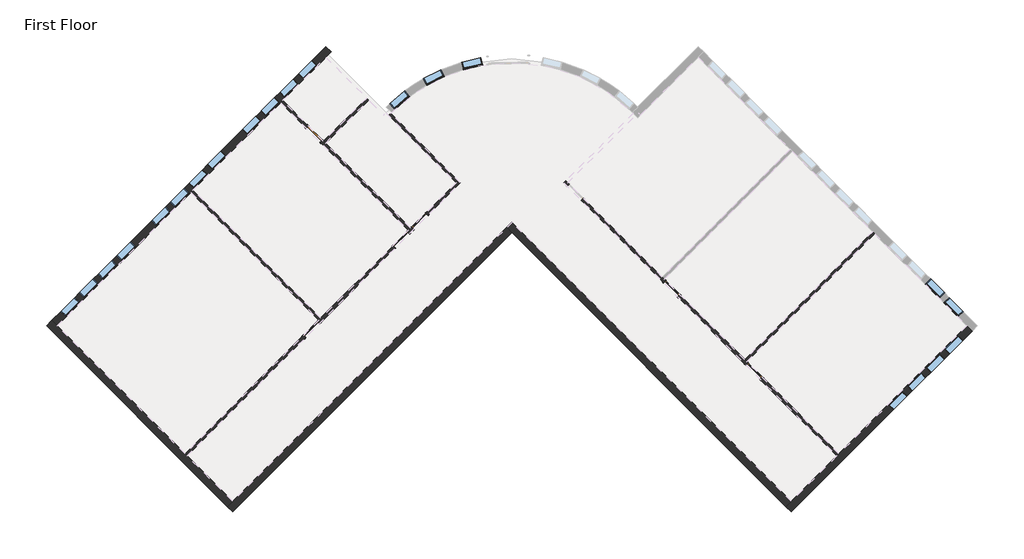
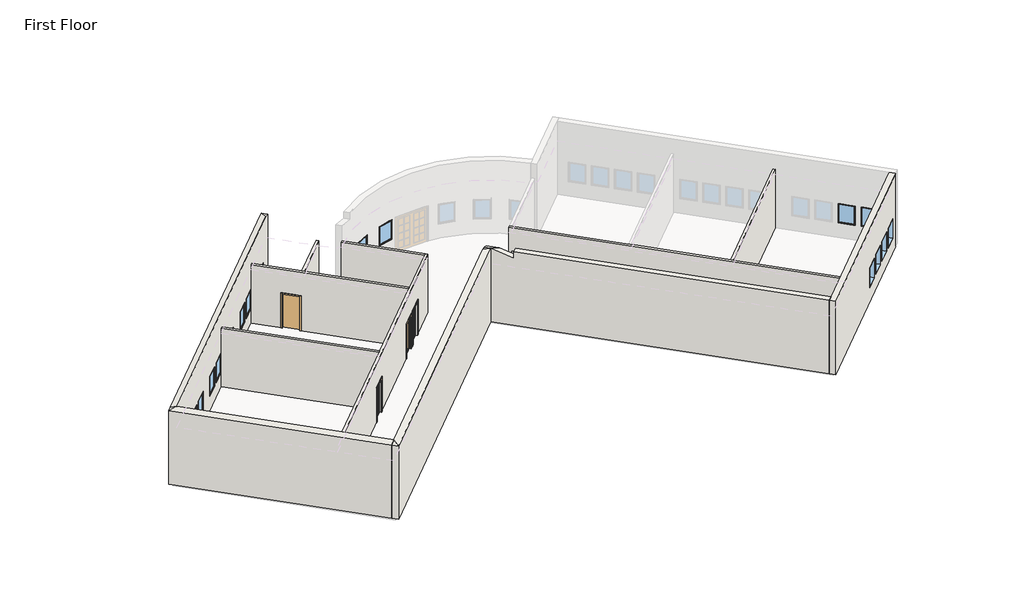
# One storey, part 1 of 2: 21 windows, 12 walls, 6 doors.
"""IFC4 building model written with IfcOpenShell, lengths in millimetres."""

from ifc_helpers import new_model, si_unit, point, frame_2d, origin, origin_with_axes, place, context, project, spatial, polyline, circle_curve, trimmed, segment, composite_curve, outline, extrude, faceted_brep, transform, mapped, element, save
from components import m_single_flush_0915_x_2134mm_83e8e835, m_single_glass_1_0915_x_2134mm_fb3287b7, m_single_glass_1_0915_x_2134mm_4e5e1233, m_fixed_0915_x_1220mm_bde29121, m_fixed_0915_x_1220mm_2a2509e7

model = new_model("IFC4")

# Units and contexts
model_context = context("Model", 3, world=origin())
ifc_project = project(units=[si_unit("LENGTHUNIT", "METRE", prefix="MILLI")], contexts=[model_context])

# Site, building, storey
site = spatial("IfcSite", under=ifc_project)
building = spatial("IfcBuilding", under=site)
storey = spatial("IfcBuildingStorey", under=building, Name="First Floor", Elevation=0.0)

# Doors
placement = place(None, origin())
m_single_flush_0915_x_2134mm_shape = m_single_flush_0915_x_2134mm_83e8e835(model_context)
element("IfcDoor", 1, ObjectType="M_Single-Flush : 0915 x 2134mm", at=placement, inside=storey, context=model_context, shape_type="MappedRepresentation", body=[
    mapped(m_single_flush_0915_x_2134mm_shape, transform((-10762.6979297, 6563.7995594, 0.0), x_axis=(0.7071067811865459, -0.7071067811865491, 0.0), y_axis=(0.7071067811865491, 0.7071067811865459, 0.0), z_axis=(0.0, 0.0, 1.0))),
])
m_single_glass_1_0915_x_2134mm_shape = m_single_glass_1_0915_x_2134mm_fb3287b7(model_context)
element("IfcDoor", 2, ObjectType="M_Single-Glass 1 : 0915 x 2134mm", at=placement, inside=storey, context=model_context, shape_type="MappedRepresentation", body=[
    mapped(m_single_glass_1_0915_x_2134mm_shape, transform((-10885.2041795, -2483.8084826, 0.0), x_axis=(0.7071067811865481, 0.7071067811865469, 0.0), y_axis=(-0.7071067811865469, 0.7071067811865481, 0.0), z_axis=(0.0, 0.0, 1.0))),
])
element("IfcDoor", 3, ObjectType="M_Single-Glass 1 : 0915 x 2134mm", at=placement, inside=storey, context=model_context, shape_type="MappedRepresentation", body=[
    mapped(m_single_glass_1_0915_x_2134mm_shape, transform((-6731.4821701, 1669.9135268, 0.0), x_axis=(0.7071067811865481, 0.7071067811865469, 0.0), y_axis=(-0.7071067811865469, 0.7071067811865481, 0.0), z_axis=(0.0, 0.0, 1.0))),
])
m_single_glass_1_0915_x_2134mm_2_shape = m_single_glass_1_0915_x_2134mm_4e5e1233(model_context)
element("IfcDoor", 4, ObjectType="M_Single-Glass 1 : 0915 x 2134mm", at=placement, inside=storey, context=model_context, shape_type="MappedRepresentation", body=[
    mapped(m_single_glass_1_0915_x_2134mm_2_shape, transform((-5868.8118971, 2532.5837999, 0.0), x_axis=(-0.7071067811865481, -0.7071067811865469, 0.0), y_axis=(0.7071067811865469, -0.7071067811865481, 0.0), z_axis=(0.0, 0.0, 1.0))),
])
element("IfcDoor", 5, ObjectType="M_Single-Glass 1 : 0915 x 2134mm", at=placement, inside=storey, context=model_context, shape_type="MappedRepresentation", body=[
    mapped(m_single_glass_1_0915_x_2134mm_2_shape, transform((5790.8485946, -591.9442895, 0.0), x_axis=(-0.7071067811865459, 0.7071067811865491, 0.0), y_axis=(-0.7071067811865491, -0.7071067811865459, 0.0), z_axis=(0.0, 0.0, 1.0))),
])
element("IfcDoor", 6, ObjectType="M_Single-Glass 1 : 0915 x 2134mm", at=placement, inside=storey, context=model_context, shape_type="MappedRepresentation", body=[
    mapped(m_single_glass_1_0915_x_2134mm_2_shape, transform((9606.3967859, -4407.4924808, 0.0), x_axis=(-0.7071067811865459, 0.7071067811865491, 0.0), y_axis=(-0.7071067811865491, -0.7071067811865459, 0.0), z_axis=(0.0, 0.0, 1.0))),
])

# Walls
element("IfcWall", 7, ObjectType="Exterior - Brick on Mtl. Stud", at=placement, inside=storey, context=model_context, shape_type="Brep", body=[
    faceted_brep([(19456.3942478, -2315.870622, 0.0), (13534.5517321, -8237.7131378, 0.0), (13436.6174429, -8335.647427, 0.0), (11330.3231184, -10441.9417514, 0.0), (11082.835745, -10689.4291248, 0.0), (11082.835745, -10689.4291248, 4572.0), (11330.3231184, -10441.9417514, 4572.0), (19456.3942478, -2315.870622, 4572.0), (16455.7866219, -5316.478248, 915.0), (16455.7866219, -5316.478248, 2135.0), (15808.7839171, -5963.4809528, 2135.0), (15808.7839171, -5963.4809528, 915.0), (17317.7497881, -4454.5150817, 915.0), (17317.7497881, -4454.5150817, 2135.0), (16670.7470833, -5101.5177865, 2135.0), (16670.7470833, -5101.5177865, 915.0), (18179.7129544, -3592.5519155, 915.0), (18179.7129544, -3592.5519155, 2135.0), (17532.7102496, -4239.5546203, 2135.0), (17532.7102496, -4239.5546203, 915.0), (19041.6761207, -2730.5887492, 915.0), (19041.6761207, -2730.5887492, 2135.0), (18394.6734159, -3377.591454, 2135.0), (18394.6734159, -3377.591454, 915.0), (19703.8816212, -2563.3579955, 0.0), (19703.8816212, -2563.3579955, 4572.0), (11330.3231184, -10936.9164983, 4572.0), (11330.3231184, -10936.9164983, 0.0), (16703.2739953, -5563.9656214, 915.0), (16056.2712905, -6210.9683262, 915.0), (16056.2712905, -6210.9683262, 2135.0), (16703.2739953, -5563.9656214, 2135.0), (17565.2371615, -4702.0024552, 915.0), (16918.2344568, -5349.0051599, 915.0), (16918.2344568, -5349.0051599, 2135.0), (17565.2371615, -4702.0024552, 2135.0), (18427.2003278, -3840.0392889, 915.0), (17780.197623, -4487.0419937, 915.0), (17780.197623, -4487.0419937, 2135.0), (18427.2003278, -3840.0392889, 2135.0), (19289.1634941, -2978.0761226, 915.0), (18642.1607893, -3625.0788274, 915.0), (18642.1607893, -3625.0788274, 2135.0), (19289.1634941, -2978.0761226, 2135.0)], [[[0, 1, 2, 3, 4, 5, 6, 7], [8, 9, 10, 11], [12, 13, 14, 15], [16, 17, 18, 19], [20, 21, 22, 23]], [[24, 25, 26, 27], [28, 29, 30, 31], [32, 33, 34, 35], [36, 37, 38, 39], [40, 41, 42, 43]], [[4, 3, 2, 1, 0, 24, 27]], [[7, 6, 5, 26, 25]], [[0, 7, 25, 24]], [[5, 4, 27, 26]], [[9, 8, 28, 31]], [[10, 9, 31, 30]], [[11, 10, 30, 29]], [[8, 11, 29, 28]], [[13, 12, 32, 35]], [[14, 13, 35, 34]], [[15, 14, 34, 33]], [[12, 15, 33, 32]], [[17, 16, 36, 39]], [[18, 17, 39, 38]], [[19, 18, 38, 37]], [[16, 19, 37, 36]], [[21, 20, 40, 43]], [[22, 21, 43, 42]], [[23, 22, 42, 41]], [[20, 23, 41, 40]]]),
])
element("IfcWall", 8, ObjectType="Exterior - Brick on Mtl. Stud", at=placement, inside=storey, context=model_context, shape_type="Brep", body=[
    faceted_brep([(11330.3231184, -10441.9417514, 0.0), (-1601.2456959, 2489.6270629, 0.0), (-1601.2456959, 2489.6270629, 4455.0920015), (-1106.2709491, 1994.6523161, 4455.0920015), (-491.0880494, 1379.4694164, 4165.1754932), (-491.0880494, 1379.4694164, 4572.0), (11330.3231184, -10441.9417514, 4572.0), (11082.835745, -10689.4291248, 0.0), (11082.835745, -10689.4291248, 4572.0), (-738.5754229, 1131.982043, 4572.0), (-738.5754229, 1131.982043, 4165.1754932), (-1601.2456959, 1994.6523161, 4571.7250795), (-1848.7330693, 2242.1396895, 4571.7250795), (-1848.7330693, 2242.1396895, 0.0), (-1601.2456959, 1994.6523161, 0.0)], [[[0, 1, 2, 3, 4, 5, 6]], [[7, 8, 9, 10, 11, 12, 13, 14]], [[1, 0, 7, 14, 13]], [[0, 6, 8, 7]], [[2, 1, 13, 12]], [[6, 5, 9, 8]], [[9, 5, 4, 10]], [[4, 3, 11, 10]], [[3, 2, 12, 11]]]),
])
element("IfcWall", 9, ObjectType="Exterior - Brick on Mtl. Stud", at=placement, inside=storey, context=model_context, shape_type="Brep", body=[
    faceted_brep([(-1848.7330693, 2242.1396895, 0.0), (-14532.8145102, -10441.9417514, 0.0), (-14780.3018837, -10689.4291248, 0.0), (-14780.3018837, -10689.4291248, 4571.7250795), (-14532.8145102, -10441.9417514, 4688.3581575), (-2096.2204427, 1994.6523161, 4688.3581575), (-1848.7330693, 2242.1396895, 4571.7250795), (-1601.2456959, 1994.6523161, 0.0), (-1601.2456959, 1994.6523161, 4571.7250795), (-14532.8145102, -10936.9164983, 4571.7250795), (-14532.8145102, -10936.9164983, 0.0)], [[[0, 1, 2, 3, 4, 5, 6]], [[7, 8, 9, 10]], [[2, 1, 0, 7, 10]], [[0, 6, 8, 7]], [[3, 2, 10, 9]], [[6, 5, 8]], [[5, 4, 9, 8]], [[4, 3, 9]]]),
])
element("IfcWall", 10, ObjectType="Exterior - Brick on Mtl. Stud", at=placement, inside=storey, context=model_context, shape_type="Brep", body=[
    faceted_brep([(-14532.8145102, -10441.9417514, 0.0), (-16639.1088347, -8335.647427, 0.0), (-16737.0431239, -8237.7131378, 0.0), (-22658.8856396, -2315.870622, 0.0), (-22775.5582585, -2199.1980031, 0.0), (-22906.3730131, -2068.3832486, 0.0), (-22906.3730131, -2068.3832486, 4571.7250795), (-22658.8856396, -2315.870622, 4688.3581575), (-14532.8145102, -10441.9417514, 4688.3581575), (-14780.3018837, -10689.4291248, 0.0), (-14780.3018837, -10689.4291248, 4571.7250795), (-23153.8603865, -2315.870622, 4571.7250795), (-23153.8603865, -2315.870622, 0.0), (-23023.045632, -2446.6853766, 0.0), (-14649.4871291, -10558.6143703, 0.0), (-23023.045632, -2185.0558675, 0.0), (-22892.2308774, -2315.870622, 0.0)], [[[0, 1, 2, 3, 4, 5, 6, 7, 8]], [[9, 10, 11, 12, 13]], [[0, 8, 10, 9, 14]], [[6, 5, 15, 12, 11]], [[8, 7, 11, 10]], [[7, 6, 11]], [[14, 9, 13, 16]], [[5, 4, 16, 15]], [[16, 13, 12, 15]], [[4, 3, 2, 1, 0, 14, 16]]]),
])
element("IfcWall", 11, ObjectType="Exterior - Brick on Mtl. Stud", at=placement, inside=storey, context=model_context, shape_type="Brep", body=[
    faceted_brep([(-22658.8856396, -2315.870622, 0.0), (-16473.6458479, 3869.3691697, 0.0), (-16375.7115587, 3967.3034589, 0.0), (-12319.9238385, 8023.0911791, 0.0), (-12221.9895493, 8121.0254683, 0.0), (-10222.2915721, 10120.7234455, 0.0), (-10105.6189532, 10237.3960644, 0.0), (-9974.8041987, 10368.2108189, 0.0), (-9974.8041987, 10368.2108189, 4571.7250795), (-10222.2915721, 10120.7234455, 4688.3581575), (-22658.8856396, -2315.870622, 4688.3581575), (-21597.1648077, -1254.1497901, 915.0), (-22244.1675125, -1901.1524949, 915.0), (-22244.1675125, -1901.1524949, 2135.0), (-21597.1648077, -1254.1497901, 2135.0), (-20735.2016414, -392.1866238, 915.0), (-21382.2043462, -1039.1893286, 915.0), (-21382.2043462, -1039.1893286, 2135.0), (-20735.2016414, -392.1866238, 2135.0), (-19011.2753089, 1331.7397087, 915.0), (-19658.2780137, 684.7370039, 915.0), (-19658.2780137, 684.7370039, 2135.0), (-19011.2753089, 1331.7397087, 2135.0), (-19873.2384752, 469.7765424, 915.0), (-20520.2411799, -177.2261623, 915.0), (-20520.2411799, -177.2261623, 2135.0), (-19873.2384752, 469.7765424, 2135.0), (-13838.0820977, 6504.9329199, 915.0), (-13838.0820977, 6504.9329199, 2135.0), (-13191.0793929, 7151.9356247, 2135.0), (-13191.0793929, 7151.9356247, 915.0), (-12976.1189315, 7366.8960861, 915.0), (-12976.1189315, 7366.8960861, 2135.0), (-12329.1162267, 8013.8987909, 2135.0), (-12329.1162267, 8013.8987909, 915.0), (-12114.1557652, 8228.8592524, 915.0), (-12114.1557652, 8228.8592524, 2135.0), (-11467.1530604, 8875.8619572, 2135.0), (-11467.1530604, 8875.8619572, 915.0), (-11252.1925989, 9090.8224187, 915.0), (-11252.1925989, 9090.8224187, 2135.0), (-10605.1898941, 9737.8251235, 2135.0), (-10605.1898941, 9737.8251235, 915.0), (-14808.2326015, 5534.7824161, 915.0), (-15455.2353063, 4887.7797113, 915.0), (-15455.2353063, 4887.7797113, 2135.0), (-14808.2326015, 5534.7824161, 2135.0), (-15670.1957678, 4672.8192498, 915.0), (-16317.1984726, 4025.816545, 915.0), (-16317.1984726, 4025.816545, 2135.0), (-15670.1957678, 4672.8192498, 2135.0), (-16532.1589341, 3810.8560836, 915.0), (-17179.1616388, 3163.8533788, 915.0), (-17179.1616388, 3163.8533788, 2135.0), (-16532.1589341, 3810.8560836, 2135.0), (-17394.1221003, 2948.8929173, 915.0), (-18041.1248051, 2301.8902125, 915.0), (-18041.1248051, 2301.8902125, 2135.0), (-17394.1221003, 2948.8929173, 2135.0), (-22906.3730131, -2068.3832486, 0.0), (-22906.3730131, -2068.3832486, 4571.7250795), (-10222.2915721, 10615.6981923, 4571.7250795), (-10222.2915721, 10615.6981923, 0.0), (-10353.1063267, 10484.8834378, 0.0), (-21844.6521811, -1006.6624167, 915.0), (-21844.6521811, -1006.6624167, 2135.0), (-22491.6548859, -1653.6651215, 2135.0), (-22491.6548859, -1653.6651215, 915.0), (-20982.6890148, -144.6992504, 915.0), (-20982.6890148, -144.6992504, 2135.0), (-21629.6917196, -791.7019552, 2135.0), (-21629.6917196, -791.7019552, 915.0), (-19258.7626823, 1579.2270821, 915.0), (-19258.7626823, 1579.2270821, 2135.0), (-19905.7653871, 932.2243773, 2135.0), (-19905.7653871, 932.2243773, 915.0), (-20120.7258486, 717.2639159, 915.0), (-20120.7258486, 717.2639159, 2135.0), (-20767.7285534, 70.2612111, 2135.0), (-20767.7285534, 70.2612111, 915.0), (-14085.5694711, 6752.4202933, 915.0), (-13438.5667664, 7399.4229981, 915.0), (-13438.5667664, 7399.4229981, 2135.0), (-14085.5694711, 6752.4202933, 2135.0), (-13223.6063049, 7614.3834596, 915.0), (-12576.6036001, 8261.3861643, 915.0), (-12576.6036001, 8261.3861643, 2135.0), (-13223.6063049, 7614.3834596, 2135.0), (-12361.6431386, 8476.3466258, 915.0), (-11714.6404338, 9123.3493306, 915.0), (-11714.6404338, 9123.3493306, 2135.0), (-12361.6431386, 8476.3466258, 2135.0), (-11499.6799723, 9338.3097921, 915.0), (-10852.6772676, 9985.3124969, 915.0), (-10852.6772676, 9985.3124969, 2135.0), (-11499.6799723, 9338.3097921, 2135.0), (-15055.7199749, 5782.2697895, 915.0), (-15055.7199749, 5782.2697895, 2135.0), (-15702.7226797, 5135.2670847, 2135.0), (-15702.7226797, 5135.2670847, 915.0), (-15917.6831412, 4920.3066232, 915.0), (-15917.6831412, 4920.3066232, 2135.0), (-16564.685846, 4273.3039184, 2135.0), (-16564.685846, 4273.3039184, 915.0), (-16779.6463075, 4058.343457, 915.0), (-16779.6463075, 4058.343457, 2135.0), (-17426.6490123, 3411.3407522, 2135.0), (-17426.6490123, 3411.3407522, 915.0), (-17641.6094737, 3196.3802907, 915.0), (-17641.6094737, 3196.3802907, 2135.0), (-18288.6121785, 2549.3775859, 2135.0), (-18288.6121785, 2549.3775859, 915.0), (-22775.5582585, -2199.1980031, 0.0), (-10091.4768176, 10484.8834378, 0.0), (-10222.2915721, 10354.0686833, 0.0)], [[[0, 1, 2, 3, 4, 5, 6, 7, 8, 9, 10], [11, 12, 13, 14], [15, 16, 17, 18], [19, 20, 21, 22], [23, 24, 25, 26], [27, 28, 29, 30], [31, 32, 33, 34], [35, 36, 37, 38], [39, 40, 41, 42], [43, 44, 45, 46], [47, 48, 49, 50], [51, 52, 53, 54], [55, 56, 57, 58]], [[59, 60, 61, 62, 63], [64, 65, 66, 67], [68, 69, 70, 71], [72, 73, 74, 75], [76, 77, 78, 79], [80, 81, 82, 83], [84, 85, 86, 87], [88, 89, 90, 91], [92, 93, 94, 95], [96, 97, 98, 99], [100, 101, 102, 103], [104, 105, 106, 107], [108, 109, 110, 111]], [[0, 10, 60, 59, 112]], [[8, 7, 113, 62, 61]], [[65, 64, 11, 14]], [[66, 65, 14, 13]], [[67, 66, 13, 12]], [[64, 67, 12, 11]], [[69, 68, 15, 18]], [[70, 69, 18, 17]], [[71, 70, 17, 16]], [[68, 71, 16, 15]], [[73, 72, 19, 22]], [[74, 73, 22, 21]], [[75, 74, 21, 20]], [[72, 75, 20, 19]], [[77, 76, 23, 26]], [[78, 77, 26, 25]], [[79, 78, 25, 24]], [[76, 79, 24, 23]], [[28, 27, 80, 83]], [[29, 28, 83, 82]], [[30, 29, 82, 81]], [[27, 30, 81, 80]], [[32, 31, 84, 87]], [[33, 32, 87, 86]], [[34, 33, 86, 85]], [[31, 34, 85, 84]], [[36, 35, 88, 91]], [[37, 36, 91, 90]], [[38, 37, 90, 89]], [[35, 38, 89, 88]], [[40, 39, 92, 95]], [[41, 40, 95, 94]], [[42, 41, 94, 93]], [[39, 42, 93, 92]], [[97, 96, 43, 46]], [[98, 97, 46, 45]], [[99, 98, 45, 44]], [[96, 99, 44, 43]], [[101, 100, 47, 50]], [[102, 101, 50, 49]], [[103, 102, 49, 48]], [[100, 103, 48, 47]], [[105, 104, 51, 54]], [[106, 105, 54, 53]], [[107, 106, 53, 52]], [[104, 107, 52, 51]], [[109, 108, 55, 58]], [[110, 109, 58, 57]], [[111, 110, 57, 56]], [[108, 111, 56, 55]], [[10, 9, 61, 60]], [[9, 8, 61]], [[7, 6, 114, 113]], [[112, 59, 63, 114]], [[63, 62, 113, 114]], [[6, 5, 4, 3, 2, 1, 0, 112, 114]]]),
])
element("IfcWall", 12, ObjectType="Interior - 138mm Partition (1-hr)", at=placement, inside=storey, context=model_context, shape_type="Brep", body=[
    faceted_brep([(-6359.0136731, 1944.4477346, 0.0), (-6143.3461049, 2160.1153029, 0.0), (-6143.3461049, 2160.1153029, 2134.0), (-5496.3434001, 2807.1180077, 2134.0), (-5496.3434001, 2807.1180077, 0.0), (-3997.9841307, 4305.477277, 0.0), (-3997.9841307, 4305.477277, 3658.0), (-16639.1088347, -8335.647427, 3658.0), (-16639.1088347, -8335.647427, 0.0), (-11159.7383873, -2856.2769796, 0.0), (-11159.7383873, -2856.2769796, 2134.0), (-10512.7356825, -2209.2742748, 2134.0), (-10512.7356825, -2209.2742748, 0.0), (-7006.0163779, 1297.4450298, 0.0), (-7006.0163779, 1297.4450298, 2134.0), (-6359.0136731, 1944.4477346, 2134.0), (-6241.2803941, 2258.0495921, 2134.0), (-6241.2803941, 2258.0495921, 0.0), (-6300.1470336, 2199.1829525, 0.0), (-6398.0813228, 2101.2486633, 0.0), (-6456.9479623, 2042.3820238, 0.0), (-6456.9479623, 2042.3820238, 2134.0), (-7103.9506671, 1395.379319, 2134.0), (-7103.9506671, 1395.379319, 0.0), (-10453.869043, -1954.5390569, 0.0), (-10551.8033322, -2052.473346, 0.0), (-10610.6699717, -2111.3399856, 0.0), (-10610.6699717, -2111.3399856, 2134.0), (-11257.6726765, -2758.3426904, 2134.0), (-11257.6726765, -2758.3426904, 0.0), (-16737.0431239, -8237.7131378, 0.0), (-16737.0431239, -8237.7131378, 3658.0), (-10551.8033322, -2052.473346, 3658.0), (-10453.869043, -1954.5390569, 3658.0), (-6398.0813228, 2101.2486633, 3658.0), (-6300.1470336, 2199.1829525, 3658.0), (-4193.8527091, 4305.477277, 3658.0), (-4095.9184199, 4403.4115662, 3658.0), (-4095.9184199, 4403.4115662, 0.0), (-4193.8527091, 4305.477277, 0.0), (-5594.2776893, 2905.0522969, 0.0), (-5594.2776893, 2905.0522969, 2134.0)], [[[0, 1, 2, 3, 4, 5, 6, 7, 8, 9, 10, 11, 12, 13, 14, 15]], [[16, 17, 18, 19, 20, 21, 22, 23, 24, 25, 26, 27, 28, 29, 30, 31, 32, 33, 34, 35, 36, 37, 38, 39, 40, 41]], [[9, 8, 30, 29]], [[13, 12, 26, 25, 24, 23]], [[40, 39, 38, 5, 4]], [[20, 19, 18, 17, 1, 0]], [[7, 6, 37, 36, 35, 34, 33, 32, 31]], [[8, 7, 31, 30]], [[6, 5, 38, 37]], [[27, 26, 12, 11]], [[28, 27, 11, 10]], [[29, 28, 10, 9]], [[21, 20, 0, 15]], [[22, 21, 15, 14]], [[23, 22, 14, 13]], [[2, 1, 17, 16]], [[3, 2, 16, 41]], [[4, 3, 41, 40]]]),
])
element("IfcWall", 13, ObjectType="Interior - 138mm Partition (1-hr)", at=placement, inside=storey, context=model_context, shape_type="SweptSolid", body=[
    extrude(outline(composite_curve([segment(polyline([(-7216.038281, 7523.5314273), (-4095.9184199, 4403.4115662), (-4193.8527091, 4305.477277), (-7312.3566207, 7423.9811885)]), True, "CONTINUOUS"), segment(trimmed(circle_curve(frame_2d((-1601.2456959, 1994.6523161)), 7880.0), [point((-7312.3566207, 7423.9811885))], [point((-7216.038281, 7523.5314273))], False, "CARTESIAN"), True, "CONTINUOUS")], self_intersect=False)), origin_with_axes(), (0.0, 0.0, 1.0), 3658.0),
])
element("IfcWall", 14, ObjectType="Interior - 138mm Partition (1-hr)", at=placement, inside=storey, context=model_context, shape_type="Brep", body=[
    faceted_brep([(-6300.1470336, 2199.1829525, 0.0), (-10233.4285039, 6132.4644229, 0.0), (-10331.3627931, 6230.3987121, 0.0), (-10390.2294327, 6289.2653516, 0.0), (-10390.2294327, 6289.2653516, 2134.0), (-11037.2321375, 6936.2680564, 2134.0), (-11037.2321375, 6936.2680564, 0.0), (-12221.9895493, 8121.0254683, 0.0), (-12221.9895493, 8121.0254683, 3658.0), (-10331.3627931, 6230.3987121, 3658.0), (-10233.4285039, 6132.4644229, 3658.0), (-6300.1470336, 2199.1829525, 3658.0), (-10488.1637219, 6191.3310624, 2134.0), (-10488.1637219, 6191.3310624, 0.0), (-6398.0813228, 2101.2486633, 0.0), (-6398.0813228, 2101.2486633, 3658.0), (-12319.9238385, 8023.0911791, 3658.0), (-12319.9238385, 8023.0911791, 0.0), (-11135.1664266, 6838.3337672, 0.0), (-11135.1664266, 6838.3337672, 2134.0)], [[[0, 1, 2, 3, 4, 5, 6, 7, 8, 9, 10, 11]], [[12, 13, 14, 15, 16, 17, 18, 19]], [[18, 17, 7, 6]], [[14, 13, 3, 2, 1, 0]], [[11, 10, 9, 8, 16, 15]], [[8, 7, 17, 16]], [[0, 11, 15, 14]], [[4, 3, 13, 12]], [[5, 4, 12, 19]], [[6, 5, 19, 18]]]),
])
element("IfcWall", 15, ObjectType="Interior - 138mm Partition (1-hr)", at=placement, inside=storey, context=model_context, shape_type="SweptSolid", body=[
    extrude(outline(polyline([(-8233.7305267, 8132.1624001), (-10233.4285039, 6132.4644229), (-10331.3627931, 6230.3987121), (-8331.6648159, 8230.0966893), (-8233.7305267, 8132.1624001)])), origin_with_axes(), (0.0, 0.0, 1.0), 3658.0),
])
element("IfcWall", 16, ObjectType="Interior - 138mm Partition (1-hr)", at=placement, inside=storey, context=model_context, shape_type="SweptSolid", body=[
    extrude(outline(polyline([(-16375.7115587, 3967.3034589), (-10453.869043, -1954.5390569), (-10551.8033322, -2052.473346), (-16473.6458479, 3869.3691697), (-16375.7115587, 3967.3034589)])), origin_with_axes(), (0.0, 0.0, 1.0), 3658.0),
])
element("IfcWall", 17, ObjectType="Interior - 138mm Partition (1-hr)", at=placement, inside=storey, context=model_context, shape_type="Brep", body=[
    faceted_brep([(9331.8625781, -4035.0239838, 2134.0), (9331.8625781, -4035.0239838, 0.0), (9272.9959386, -3976.1573443, 0.0), (9175.0616494, -3878.2230551, 0.0), (6163.3170916, -866.4784973, 0.0), (6163.3170916, -866.4784973, 2134.0), (5516.3143868, -219.4757925, 2134.0), (5516.3143868, -219.4757925, 0.0), (5457.4477473, -160.609153, 0.0), (5359.5134581, -62.6748638, 0.0), (1697.2306616, 3599.6079327, 0.0), (1697.2306616, 3599.6079327, 2134.0), (1050.2279568, 4246.6106375, 2134.0), (1050.2279568, 4246.6106375, 0.0), (991.3613173, 4305.477277, 0.0), (893.4270281, 4403.4115662, 0.0), (893.4270281, 4403.4115662, 3658.0), (991.3613173, 4305.477277, 3658.0), (5359.5134581, -62.6748638, 3658.0), (5457.4477473, -160.609153, 3658.0), (9175.0616494, -3878.2230551, 3658.0), (9272.9959386, -3976.1573443, 3658.0), (13534.5517321, -8237.7131378, 3658.0), (13534.5517321, -8237.7131378, 0.0), (9978.8652829, -4682.0266886, 0.0), (9978.8652829, -4682.0266886, 2134.0), (6065.3828024, -964.4127865, 0.0), (9233.9282889, -4132.958273, 0.0), (9233.9282889, -4132.958273, 2134.0), (9880.9309937, -4779.9609778, 2134.0), (9880.9309937, -4779.9609778, 0.0), (13436.6174429, -8335.647427, 0.0), (13436.6174429, -8335.647427, 3658.0), (795.4927389, 4305.477277, 3658.0), (795.4927389, 4305.477277, 0.0), (952.2936677, 4148.6763483, 0.0), (952.2936677, 4148.6763483, 2134.0), (1599.2963724, 3501.6736435, 2134.0), (1599.2963724, 3501.6736435, 0.0), (5418.3800976, -317.4100817, 0.0), (5418.3800976, -317.4100817, 2134.0), (6065.3828024, -964.4127865, 2134.0)], [[[0, 1, 2, 3, 4, 5, 6, 7, 8, 9, 10, 11, 12, 13, 14, 15, 16, 17, 18, 19, 20, 21, 22, 23, 24, 25]], [[26, 27, 28, 29, 30, 31, 32, 33, 34, 35, 36, 37, 38, 39, 40, 41]], [[15, 14, 13, 35, 34]], [[10, 9, 8, 7, 39, 38]], [[24, 23, 31, 30]], [[4, 3, 2, 1, 27, 26]], [[22, 21, 20, 19, 18, 17, 16, 33, 32]], [[23, 22, 32, 31]], [[16, 15, 34, 33]], [[36, 35, 13, 12]], [[37, 36, 12, 11]], [[38, 37, 11, 10]], [[40, 39, 7, 6]], [[41, 40, 6, 5]], [[26, 41, 5, 4]], [[28, 27, 1, 0]], [[29, 28, 0, 25]], [[30, 29, 25, 24]]]),
])
element("IfcWall", 18, ObjectType="Interior - 138mm Partition (1-hr)", at=placement, inside=storey, context=model_context, shape_type="SweptSolid", body=[
    extrude(outline(polyline([(15194.8384543, 1945.6851715), (9272.9959386, -3976.1573443), (9175.0616494, -3878.2230551), (15096.9041651, 2043.6194607), (15194.8384543, 1945.6851715)])), origin_with_axes(), (0.0, 0.0, 1.0), 3658.0),
])

# Windows
m_fixed_0915_x_1220mm_shape = m_fixed_0915_x_1220mm_bde29121(model_context)
element("IfcWindow", 19, ObjectType="M_Fixed : 0915 x 1220mm", at=placement, inside=storey, context=model_context, shape_type="MappedRepresentation", body=[
    mapped(m_fixed_0915_x_1220mm_shape, transform((-22053.6022349, -1444.7150676, 0.0), x_axis=(-0.7071067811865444, -0.7071067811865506, 0.0), y_axis=(0.7071067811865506, -0.7071067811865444, 0.0), z_axis=(0.0, 0.0, 1.0))),
])
element("IfcWindow", 20, ObjectType="M_Fixed : 0915 x 1220mm", at=placement, inside=storey, context=model_context, shape_type="MappedRepresentation", body=[
    mapped(m_fixed_0915_x_1220mm_shape, transform((-6805.4026025, 8143.1636668, 0.0), x_axis=(-0.7632901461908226, -0.6460558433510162, 0.0), y_axis=(0.6460558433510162, -0.7632901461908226, 0.0), z_axis=(0.0, 0.0, 1.0))),
])
element("IfcWindow", 21, ObjectType="M_Fixed : 0915 x 1220mm", at=placement, inside=storey, context=model_context, shape_type="MappedRepresentation", body=[
    mapped(m_fixed_0915_x_1220mm_shape, transform((18851.1108431, -1444.7150676, 0.0), x_axis=(-0.7071067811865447, 0.7071067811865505, 0.0), y_axis=(-0.7071067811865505, -0.7071067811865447, 0.0), z_axis=(0.0, 0.0, 1.0))),
])
element("IfcWindow", 22, ObjectType="M_Fixed : 0915 x 1220mm", at=placement, inside=storey, context=model_context, shape_type="MappedRepresentation", body=[
    mapped(m_fixed_0915_x_1220mm_shape, transform((-3446.8177118, 9835.6538384, 0.0), x_axis=(-0.9733997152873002, -0.22911349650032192, 0.0), y_axis=(0.22911349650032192, -0.9733997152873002, 0.0), z_axis=(0.0, 0.0, 1.0))),
])
element("IfcWindow", 23, ObjectType="M_Fixed : 0915 x 1220mm", at=placement, inside=storey, context=model_context, shape_type="MappedRepresentation", body=[
    mapped(m_fixed_0915_x_1220mm_shape, transform((-5226.2698635, 9188.1661114, 0.0), x_axis=(-0.8930191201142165, -0.45001872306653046, 0.0), y_axis=(0.45001872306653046, -0.8930191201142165, 0.0), z_axis=(0.0, 0.0, 1.0))),
])
element("IfcWindow", 24, ObjectType="M_Fixed : 0915 x 1220mm", at=placement, inside=storey, context=model_context, shape_type="MappedRepresentation", body=[
    mapped(m_fixed_0915_x_1220mm_shape, transform((17989.1476769, -582.7519014, 0.0), x_axis=(-0.7071067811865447, 0.7071067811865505, 0.0), y_axis=(-0.7071067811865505, -0.7071067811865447, 0.0), z_axis=(0.0, 0.0, 1.0))),
])
element("IfcWindow", 25, ObjectType="M_Fixed : 0915 x 1220mm", at=placement, inside=storey, context=model_context, shape_type="MappedRepresentation", body=[
    mapped(m_fixed_0915_x_1220mm_shape, transform((-21191.6390687, -582.7519014, 0.0), x_axis=(-0.7071067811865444, -0.7071067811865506, 0.0), y_axis=(0.7071067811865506, -0.7071067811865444, 0.0), z_axis=(0.0, 0.0, 1.0))),
])
element("IfcWindow", 26, ObjectType="M_Fixed : 0915 x 1220mm", at=placement, inside=storey, context=model_context, shape_type="MappedRepresentation", body=[
    mapped(m_fixed_0915_x_1220mm_shape, transform((-20329.6759024, 279.2112649, 0.0), x_axis=(-0.7071067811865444, -0.7071067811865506, 0.0), y_axis=(0.7071067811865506, -0.7071067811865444, 0.0), z_axis=(0.0, 0.0, 1.0))),
])
element("IfcWindow", 27, ObjectType="M_Fixed : 0915 x 1220mm", at=placement, inside=storey, context=model_context, shape_type="MappedRepresentation", body=[
    mapped(m_fixed_0915_x_1220mm_shape, transform((-19467.7127362, 1141.1744312, 0.0), x_axis=(-0.7071067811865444, -0.7071067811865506, 0.0), y_axis=(0.7071067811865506, -0.7071067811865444, 0.0), z_axis=(0.0, 0.0, 1.0))),
])
element("IfcWindow", 28, ObjectType="M_Fixed : 0915 x 1220mm", at=placement, inside=storey, context=model_context, shape_type="MappedRepresentation", body=[
    mapped(m_fixed_0915_x_1220mm_shape, transform((-17850.5595276, 2758.3276398, 0.0), x_axis=(-0.7071067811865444, -0.7071067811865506, 0.0), y_axis=(0.7071067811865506, -0.7071067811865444, 0.0), z_axis=(0.0, 0.0, 1.0))),
])
element("IfcWindow", 29, ObjectType="M_Fixed : 0915 x 1220mm", at=placement, inside=storey, context=model_context, shape_type="MappedRepresentation", body=[
    mapped(m_fixed_0915_x_1220mm_shape, transform((-16988.5963613, 3620.290806, 0.0), x_axis=(-0.7071067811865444, -0.7071067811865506, 0.0), y_axis=(0.7071067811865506, -0.7071067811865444, 0.0), z_axis=(0.0, 0.0, 1.0))),
])
element("IfcWindow", 30, ObjectType="M_Fixed : 0915 x 1220mm", at=placement, inside=storey, context=model_context, shape_type="MappedRepresentation", body=[
    mapped(m_fixed_0915_x_1220mm_shape, transform((-16126.633195, 4482.2539723, 0.0), x_axis=(-0.7071067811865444, -0.7071067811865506, 0.0), y_axis=(0.7071067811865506, -0.7071067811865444, 0.0), z_axis=(0.0, 0.0, 1.0))),
])
element("IfcWindow", 31, ObjectType="M_Fixed : 0915 x 1220mm", at=placement, inside=storey, context=model_context, shape_type="MappedRepresentation", body=[
    mapped(m_fixed_0915_x_1220mm_shape, transform((-15264.6700288, 5344.2171386, 0.0), x_axis=(-0.7071067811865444, -0.7071067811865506, 0.0), y_axis=(0.7071067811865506, -0.7071067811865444, 0.0), z_axis=(0.0, 0.0, 1.0))),
])
m_fixed_0915_x_1220mm_2_shape = m_fixed_0915_x_1220mm_2a2509e7(model_context)
element("IfcWindow", 32, ObjectType="M_Fixed : 0915 x 1220mm", at=placement, inside=storey, context=model_context, shape_type="MappedRepresentation", body=[
    mapped(m_fixed_0915_x_1220mm_2_shape, transform((18851.1108431, -3187.0261765, 0.0), x_axis=(-0.7071067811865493, -0.7071067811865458, 0.0), y_axis=(0.7071067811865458, -0.7071067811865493, 0.0), z_axis=(0.0, 0.0, 1.0))),
])
element("IfcWindow", 33, ObjectType="M_Fixed : 0915 x 1220mm", at=placement, inside=storey, context=model_context, shape_type="MappedRepresentation", body=[
    mapped(m_fixed_0915_x_1220mm_2_shape, transform((17989.1476769, -4048.9893427, 0.0), x_axis=(-0.7071067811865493, -0.7071067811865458, 0.0), y_axis=(0.7071067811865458, -0.7071067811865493, 0.0), z_axis=(0.0, 0.0, 1.0))),
])
element("IfcWindow", 34, ObjectType="M_Fixed : 0915 x 1220mm", at=placement, inside=storey, context=model_context, shape_type="MappedRepresentation", body=[
    mapped(m_fixed_0915_x_1220mm_2_shape, transform((17127.1845106, -4910.952509, 0.0), x_axis=(-0.7071067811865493, -0.7071067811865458, 0.0), y_axis=(0.7071067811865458, -0.7071067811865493, 0.0), z_axis=(0.0, 0.0, 1.0))),
])
element("IfcWindow", 35, ObjectType="M_Fixed : 0915 x 1220mm", at=placement, inside=storey, context=model_context, shape_type="MappedRepresentation", body=[
    mapped(m_fixed_0915_x_1220mm_2_shape, transform((16265.2213443, -5772.9156753, 0.0), x_axis=(-0.7071067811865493, -0.7071067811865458, 0.0), y_axis=(0.7071067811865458, -0.7071067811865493, 0.0), z_axis=(0.0, 0.0, 1.0))),
])
element("IfcWindow", 36, ObjectType="M_Fixed : 0915 x 1220mm", at=placement, inside=storey, context=model_context, shape_type="MappedRepresentation", body=[
    mapped(m_fixed_0915_x_1220mm_2_shape, transform((-11061.6273214, 9547.2598459, 0.0), x_axis=(0.7071067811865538, 0.7071067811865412, 0.0), y_axis=(-0.7071067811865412, 0.7071067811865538, 0.0), z_axis=(0.0, 0.0, 1.0))),
])
element("IfcWindow", 37, ObjectType="M_Fixed : 0915 x 1220mm", at=placement, inside=storey, context=model_context, shape_type="MappedRepresentation", body=[
    mapped(m_fixed_0915_x_1220mm_2_shape, transform((-11923.5904877, 8685.2966797, 0.0), x_axis=(0.7071067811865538, 0.7071067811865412, 0.0), y_axis=(-0.7071067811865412, 0.7071067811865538, 0.0), z_axis=(0.0, 0.0, 1.0))),
])
element("IfcWindow", 38, ObjectType="M_Fixed : 0915 x 1220mm", at=placement, inside=storey, context=model_context, shape_type="MappedRepresentation", body=[
    mapped(m_fixed_0915_x_1220mm_2_shape, transform((-12785.5536539, 7823.3335134, 0.0), x_axis=(0.7071067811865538, 0.7071067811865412, 0.0), y_axis=(-0.7071067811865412, 0.7071067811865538, 0.0), z_axis=(0.0, 0.0, 1.0))),
])
element("IfcWindow", 39, ObjectType="M_Fixed : 0915 x 1220mm", at=placement, inside=storey, context=model_context, shape_type="MappedRepresentation", body=[
    mapped(m_fixed_0915_x_1220mm_2_shape, transform((-13647.5168202, 6961.3703471, 0.0), x_axis=(0.7071067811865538, 0.7071067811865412, 0.0), y_axis=(-0.7071067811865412, 0.7071067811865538, 0.0), z_axis=(0.0, 0.0, 1.0))),
])

save(model, "model.ifc")
